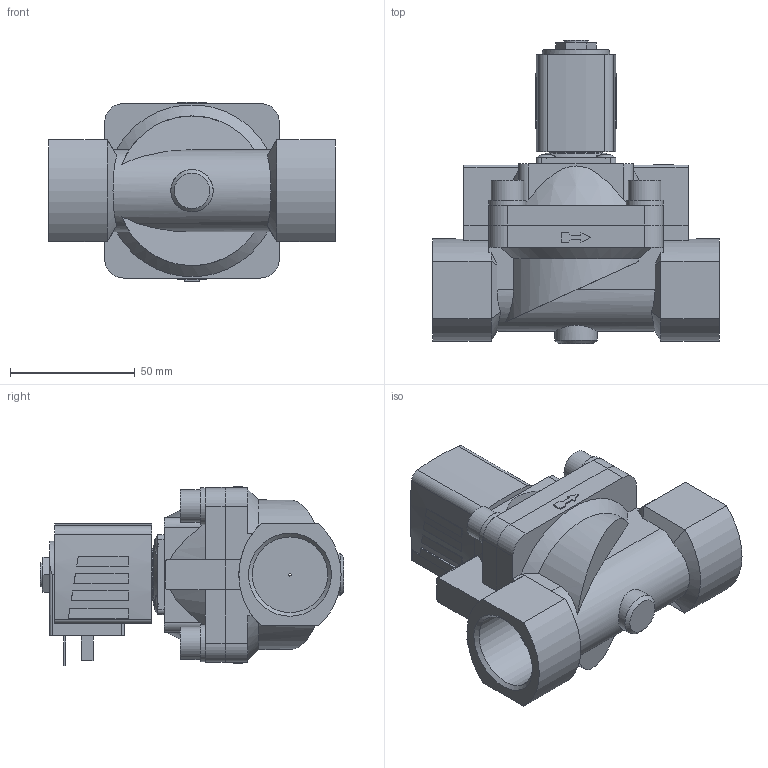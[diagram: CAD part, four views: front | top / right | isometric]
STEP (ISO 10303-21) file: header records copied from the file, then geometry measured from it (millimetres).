
FILE_DESCRIPTION(/* description */ ('STEP AP214'),/* implementation_level */ '2;1');
FILE_NAME(/* name */ '5404-358282-Servo-assisted_2_2_way_piston_valve',/* time_stamp */ '2024-02-27T10:55:31+01:00',/* author */ ('License CC BY-ND 4.0'),/* organization */ ('CADENAS'),/* preprocessor_version */ 'ST-DEVELOPER v19.3',/* originating_system */ 'PARTsolutions',/* authorisation */ ' ');
FILE_SCHEMA (('AUTOMOTIVE_DESIGN {1 0 10303 214 3 1 1}'));
Length unit declared in the file: millimetre
Products named in the file (4): 5404-358282-Servo-assisted 2/2 way piston valve; 5282g-8625MS000-2/2-Wege-Magnetventil_Gehaeuse; 5282d-25MSAU3N-2/2-Wege-Magnetventil_Deckel; AC10ex-5NA38-Plan-Coil
Assembly tree (3 placements, depth 2):
  5404-358282-Servo-assisted 2/2 way piston valve
    5282g-8625MS000-2/2-Wege-Magnetventil_Gehaeuse
    5282d-25MSAU3N-2/2-Wege-Magnetventil_Deckel
    AC10ex-5NA38-Plan-Coil
Bounding box: 115 x 121.6 x 72 mm (x, y, z)
Volume: 320389.4 mm3; surface area: 58698.9 mm2
Topology: 3 solids, 3 shells, 291 faces, 718 edges, 473 vertices
Faces by surface type: plane 189, cylinder 76, cone 21, torus 5
Full cylindrical faces by diameter (mm): 1 x1, 2.013 x1, 4 x4, 7.5 x4, 7.6 x4, 9.74 x1, 13 x4, 14.8 x4, 17 x1, 21 x1, 30.291 x2
Entity records: 9222 total; most frequent: CARTESIAN_POINT 1693, DIRECTION 1400, ORIENTED_EDGE 1342, EDGE_CURVE 671, AXIS2_PLACEMENT_3D 489, VERTEX_POINT 463, LINE 422, VECTOR 422
